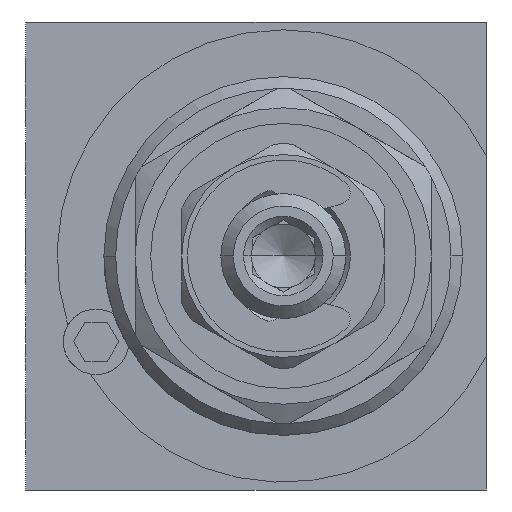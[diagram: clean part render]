
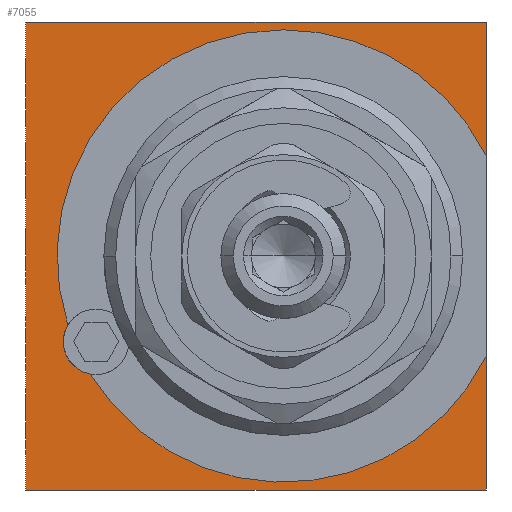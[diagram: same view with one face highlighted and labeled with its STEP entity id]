
A CAD part, left-side view. The second image highlights one B-rep face of the part: STEP entity #7055.
In plain terms, the highlighted planar face has unit normal (-1, 0, 0).
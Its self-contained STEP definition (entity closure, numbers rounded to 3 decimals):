
#414 = ORIENTED_EDGE ( 'NONE', *, *, #1228, .T. ) ;
#471 = ORIENTED_EDGE ( 'NONE', *, *, #8971, .F. ) ;
#538 = DIRECTION ( 'NONE',  ( 1., 0., 0. ) ) ;
#573 = EDGE_CURVE ( 'NONE', #2006, #7687, #3590, .T. ) ;
#614 = ORIENTED_EDGE ( 'NONE', *, *, #573, .F. ) ;
#652 = ORIENTED_EDGE ( 'NONE', *, *, #4603, .F. ) ;
#832 = ORIENTED_EDGE ( 'NONE', *, *, #1354, .F. ) ;
#1003 = LINE ( 'NONE', #14356, #11751 ) ;
#1034 = ORIENTED_EDGE ( 'NONE', *, *, #9995, .F. ) ;
#1173 = DIRECTION ( 'NONE',  ( 0., 0., 1. ) ) ;
#1175 = DIRECTION ( 'NONE',  ( -1., 0., 0. ) ) ;
#1224 = DIRECTION ( 'NONE',  ( 0., 0., -1. ) ) ;
#1228 = EDGE_CURVE ( 'NONE', #10924, #9571, #11080, .T. ) ;
#1324 = CARTESIAN_POINT ( 'NONE',  ( 0., -1.75, 0. ) ) ;
#1325 = CARTESIAN_POINT ( 'NONE',  ( 0., -1.75, 14.5 ) ) ;
#1342 = DIRECTION ( 'NONE',  ( 1., 0., 0. ) ) ;
#1352 = DIRECTION ( 'NONE',  ( 0., 0., 1. ) ) ;
#1354 = EDGE_CURVE ( 'NONE', #10214, #4899, #10077, .T. ) ;
#1411 = CARTESIAN_POINT ( 'NONE',  ( 0., 14.75, -15. ) ) ;
#1492 = CARTESIAN_POINT ( 'NONE',  ( 0., -14.75, 15. ) ) ;
#1595 = ORIENTED_EDGE ( 'NONE', *, *, #11420, .T. ) ;
#1754 = VECTOR ( 'NONE', #11945, 1000. ) ;
#2006 = VERTEX_POINT ( 'NONE', #13040 ) ;
#2026 = VECTOR ( 'NONE', #1224, 1000. ) ;
#2176 = CARTESIAN_POINT ( 'NONE',  ( 0., -1.75, 0. ) ) ;
#2714 = CARTESIAN_POINT ( 'NONE',  ( 0., -14.75, 15. ) ) ;
#2777 = VERTEX_POINT ( 'NONE', #3419 ) ;
#2825 = DIRECTION ( 'NONE',  ( 0., -1., 0. ) ) ;
#2967 = PLANE ( 'NONE',  #14433 ) ;
#3271 = DIRECTION ( 'NONE',  ( 0., 0., 1. ) ) ;
#3419 = CARTESIAN_POINT ( 'NONE',  ( 0., -14.75, -6.423 ) ) ;
#3499 = LINE ( 'NONE', #1492, #2026 ) ;
#3500 = DIRECTION ( 'NONE',  ( 0., 1., 0. ) ) ;
#3590 = CIRCLE ( 'NONE', #7557, 2.1 ) ;
#3959 = ORIENTED_EDGE ( 'NONE', *, *, #8692, .F. ) ;
#4016 = CIRCLE ( 'NONE', #8761, 14.5 ) ;
#4056 = CARTESIAN_POINT ( 'NONE',  ( 0., 10.619, -7.567 ) ) ;
#4228 = FACE_OUTER_BOUND ( 'NONE', #13849, .T. ) ;
#4251 = CARTESIAN_POINT ( 'NONE',  ( 0., -14.75, 6.423 ) ) ;
#4603 = EDGE_CURVE ( 'NONE', #14500, #14205, #1003, .T. ) ;
#4899 = VERTEX_POINT ( 'NONE', #12305 ) ;
#5612 = DIRECTION ( 'NONE',  ( 0., 0., 1. ) ) ;
#5627 = DIRECTION ( 'NONE',  ( -1., 0., 0. ) ) ;
#5658 = CARTESIAN_POINT ( 'NONE',  ( 0., 10.25, -5.5 ) ) ;
#6126 = CARTESIAN_POINT ( 'NONE',  ( 0., -14.75, -15. ) ) ;
#6545 = DIRECTION ( 'NONE',  ( 0., 0., -1. ) ) ;
#7055 = ADVANCED_FACE ( 'NONE', ( #4228 ), #2967, .T. ) ;
#7306 = CARTESIAN_POINT ( 'NONE',  ( 0., -1.75, 0. ) ) ;
#7557 = AXIS2_PLACEMENT_3D ( 'NONE', #5658, #5627, #5612 ) ;
#7687 = VERTEX_POINT ( 'NONE', #4056 ) ;
#7982 = CARTESIAN_POINT ( 'NONE',  ( 0., 14.75, 15. ) ) ;
#8462 = DIRECTION ( 'NONE',  ( 0., 0., 1. ) ) ;
#8555 = VECTOR ( 'NONE', #6545, 1000. ) ;
#8692 = EDGE_CURVE ( 'NONE', #14205, #10214, #10940, .T. ) ;
#8726 = LINE ( 'NONE', #9107, #8555 ) ;
#8761 = AXIS2_PLACEMENT_3D ( 'NONE', #2176, #10089, #3271 ) ;
#8971 = EDGE_CURVE ( 'NONE', #4899, #9571, #8726, .T. ) ;
#9107 = CARTESIAN_POINT ( 'NONE',  ( 0., -14.75, 15. ) ) ;
#9571 = VERTEX_POINT ( 'NONE', #4251 ) ;
#9612 = VECTOR ( 'NONE', #2825, 1000. ) ;
#9847 = AXIS2_PLACEMENT_3D ( 'NONE', #7306, #538, #8462 ) ;
#9995 = EDGE_CURVE ( 'NONE', #2777, #14500, #3499, .T. ) ;
#10077 = LINE ( 'NONE', #2714, #9612 ) ;
#10089 = DIRECTION ( 'NONE',  ( 1., 0., 0. ) ) ;
#10214 = VERTEX_POINT ( 'NONE', #7982 ) ;
#10902 = CARTESIAN_POINT ( 'NONE',  ( 0., 14.75, -15. ) ) ;
#10924 = VERTEX_POINT ( 'NONE', #1325 ) ;
#10940 = LINE ( 'NONE', #12025, #1754 ) ;
#11080 = CIRCLE ( 'NONE', #14568, 14.5 ) ;
#11420 = EDGE_CURVE ( 'NONE', #2777, #7687, #13490, .T. ) ;
#11751 = VECTOR ( 'NONE', #3500, 1000. ) ;
#11945 = DIRECTION ( 'NONE',  ( 0., 0., 1. ) ) ;
#12025 = CARTESIAN_POINT ( 'NONE',  ( 0., 14.75, 15. ) ) ;
#12305 = CARTESIAN_POINT ( 'NONE',  ( 0., -14.75, 15. ) ) ;
#12972 = ORIENTED_EDGE ( 'NONE', *, *, #13710, .T. ) ;
#13040 = CARTESIAN_POINT ( 'NONE',  ( 0., 12.057, -4.43 ) ) ;
#13490 = CIRCLE ( 'NONE', #9847, 14.5 ) ;
#13710 = EDGE_CURVE ( 'NONE', #2006, #10924, #4016, .T. ) ;
#13849 = EDGE_LOOP ( 'NONE', ( #614, #12972, #414, #471, #832, #3959, #652, #1034, #1595 ) ) ;
#14205 = VERTEX_POINT ( 'NONE', #10902 ) ;
#14356 = CARTESIAN_POINT ( 'NONE',  ( 0., -14.75, -15. ) ) ;
#14433 = AXIS2_PLACEMENT_3D ( 'NONE', #1411, #1175, #1173 ) ;
#14500 = VERTEX_POINT ( 'NONE', #6126 ) ;
#14568 = AXIS2_PLACEMENT_3D ( 'NONE', #1324, #1342, #1352 ) ;
